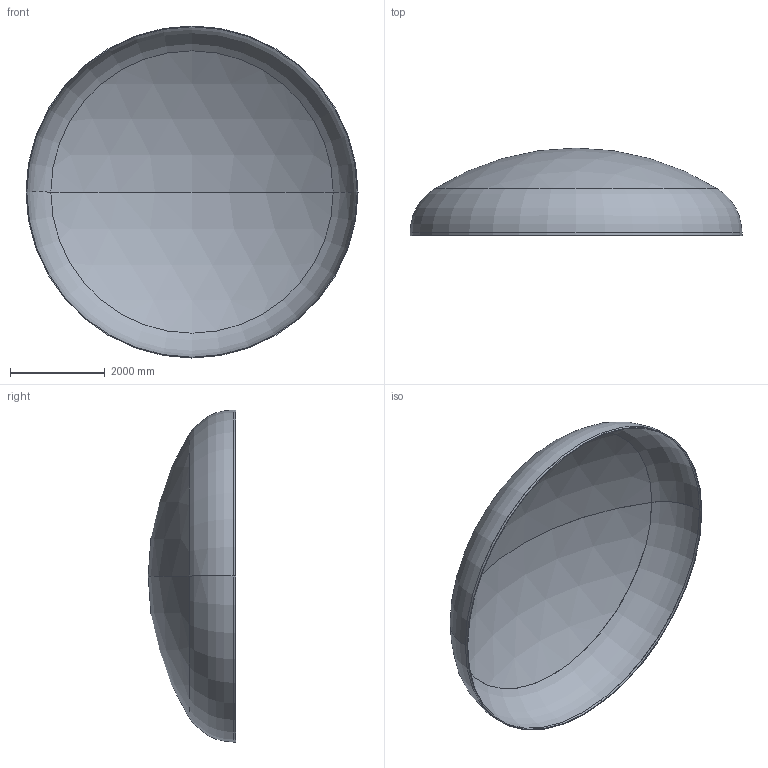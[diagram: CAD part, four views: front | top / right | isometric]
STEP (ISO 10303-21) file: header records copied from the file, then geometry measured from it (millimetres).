
FILE_DESCRIPTION (( 'STEP AP203' ), '1' );
FILE_NAME ('DIN 28013 Korbbogenform_-_Boden DIN 28013 - 7000 x 55 - I - s=17.step', '2016-07-04T10:45:32', ( '' ), ( '' ), 'SwSTEP 2.0', 'SolidWorks 2013', '' );
FILE_SCHEMA (( 'CONFIG_CONTROL_DESIGN' ));
Length unit declared in the file: millimetre
Products named in the file (1): DIN 28013 Korbbogenform_-_Boden DIN 28013 - 7000 x 55 - I - s=17
Bounding box: 7000 x 1843.69 x 7000 mm (x, y, z)
Volume: 924114940.8 mm3; surface area: 109092907.1 mm2
Topology: 1 solids, 1 shells, 13 faces, 24 edges, 14 vertices
Faces by surface type: torus 4, cylinder 4, sphere 4, plane 1
Entity records: 407 total; most frequent: DIRECTION 72, CARTESIAN_POINT 52, ORIENTED_EDGE 48, AXIS2_PLACEMENT_3D 34, EDGE_CURVE 24, CIRCLE 20, EDGE_LOOP 14, VERTEX_POINT 14
